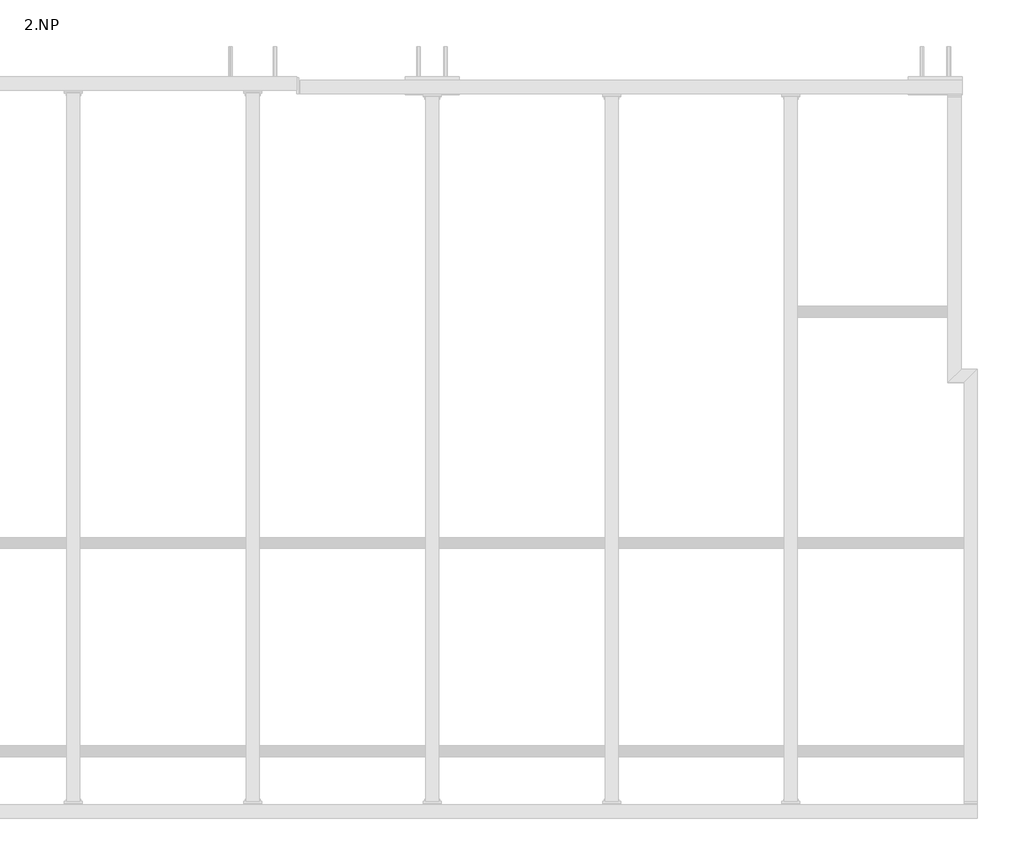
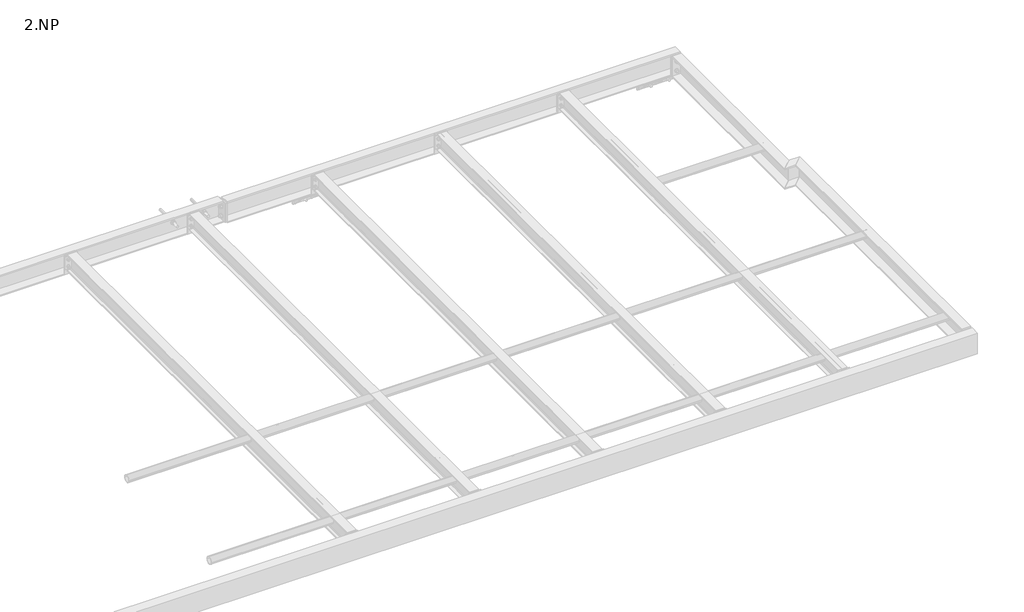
# One storey, part 18 of 18: 8 assemblies.
"""IFC4 building model written with IfcOpenShell, lengths in millimetres."""

import ifcopenshell
import ifcopenshell.guid

model = None  # the IFC model being written
_history = None  # IfcOwnerHistory: only IFC2X3 demands one
_inside = {}  # id of a spatial element -> (the spatial element, [elements in it])
_under = {}  # id of a project, library or spatial element -> (it, [spatial elements below it])
_declared = {}  # id of a project -> (the project, [libraries it declares])
_typed = {}  # id of a type object -> (the type object, [elements of that type])
_made_of = {}  # id of a material, layer set ... -> (it, [elements and type objects made of it])


def new_model(schema):
    """Start an empty IFC model of exactly this schema.

    Asked for "IFC4X3", IfcOpenShell would pick the latest addendum, in which some entities
    have other attributes; the version numbers below select the first issue.
    IFC2X3 requires an IfcOwnerHistory on every rooted entity: one is made here for all.
    """
    global model, _history
    if schema == "IFC4X3":
        model = ifcopenshell.file(schema_version=(4, 3, 0, 0))
    else:
        model = ifcopenshell.file(schema=schema)
    _inside.clear()
    _under.clear()
    _declared.clear()
    _typed.clear()
    _made_of.clear()
    _history = None
    if model.schema == "IFC2X3":
        org = make("IfcOrganization", Name="unknown")
        user = make(
            "IfcPersonAndOrganization",
            ThePerson=make("IfcPerson", FamilyName="unknown"),
            TheOrganization=org,
        )
        app = make(
            "IfcApplication",
            ApplicationDeveloper=org,
            Version="unknown",
            ApplicationFullName="unknown",
            ApplicationIdentifier="unknown",
        )
        _history = make(
            "IfcOwnerHistory",
            OwningUser=user,
            OwningApplication=app,
            ChangeAction="ADDED",
            CreationDate=0,
        )
    return model


def make(cls, **values):
    """One entity of the class cls with the attributes given. An attribute that is None is left unset."""
    return model.create_entity(
        cls, **{name: value for name, value in values.items() if value is not None}
    )


def rooted(cls, **values):
    """An entity with a GlobalId (a new one), such as an element, a storey or a relation."""
    return make(cls, GlobalId=ifcopenshell.guid.new(), OwnerHistory=_history, **values)


def si_unit(unit_type, name, prefix=None):
    """IfcSIUnit, for example si_unit("LENGTHUNIT", "METRE", prefix="MILLI")."""
    return make("IfcSIUnit", UnitType=unit_type, Prefix=prefix, Name=name)


def assignment(units):
    """IfcUnitAssignment: the units of a project."""
    return None if units is None else make("IfcUnitAssignment", Units=units)


def point(xyz):
    """IfcCartesianPoint."""
    return None if xyz is None else make("IfcCartesianPoint", Coordinates=xyz)


def direction(xyz):
    """IfcDirection."""
    return None if xyz is None else make("IfcDirection", DirectionRatios=xyz)


def frame(location, z_axis=None, x_axis=None):
    """IfcAxis2Placement3D, a coordinate frame: its origin and axes. An axis left out is left unset."""
    return make(
        "IfcAxis2Placement3D",
        Location=point(location),
        Axis=direction(z_axis),
        RefDirection=direction(x_axis),
    )


def frame_2d(location, x_axis=None):
    """IfcAxis2Placement2D, a coordinate frame in the plane: its origin and x axis."""
    return make(
        "IfcAxis2Placement2D", Location=point(location), RefDirection=direction(x_axis)
    )


def origin():
    """The frame at (0, 0, 0) with its axes left unset."""
    return frame((0.0, 0.0, 0.0))


def place(relative_to, where):
    """IfcLocalPlacement: puts the frame where relative to a parent placement (None: the world)."""
    return make(
        "IfcLocalPlacement", PlacementRelTo=relative_to, RelativePlacement=where
    )


def context(
    kind, dimensions, precision=None, world=None, true_north=None, identifier=None
):
    """IfcGeometricRepresentationContext, for example the 3D "Model" context."""
    return make(
        "IfcGeometricRepresentationContext",
        ContextIdentifier=identifier,
        ContextType=kind,
        CoordinateSpaceDimension=dimensions,
        Precision=precision,
        WorldCoordinateSystem=world,
        TrueNorth=true_north,
    )


def project(units=None, contexts=None):
    """IfcProject with its units and contexts."""
    return rooted(
        "IfcProject",
        Name="project",
        RepresentationContexts=contexts,
        UnitsInContext=assignment(units),
    )


def spatial(cls, under=None, at=None, **own):
    """A site, building, storey or space (cls), placed at a placement, below another one or the project."""
    s = rooted(cls, ObjectPlacement=at, **own)
    if under is not None:
        _under.setdefault(under.id(), (under, []))[1].append(s)
    return s


def polyline(points):
    """IfcPolyline through the points."""
    return make("IfcPolyline", Points=[point(p) for p in points])


def circle_curve(where, radius):
    """IfcCircle in the frame where."""
    return make("IfcCircle", Position=where, Radius=radius)


def trimmed(basis, trim1, trim2, sense, master):
    """IfcTrimmedCurve: the piece of a basis curve between two trims."""
    return make(
        "IfcTrimmedCurve",
        BasisCurve=basis,
        Trim1=trim1,
        Trim2=trim2,
        SenseAgreement=sense,
        MasterRepresentation=master,
    )


def segment(curve, same_sense, transition):
    """IfcCompositeCurveSegment."""
    return make(
        "IfcCompositeCurveSegment",
        Transition=transition,
        SameSense=same_sense,
        ParentCurve=curve,
    )


def composite_curve(segments, self_intersect=None):
    """IfcCompositeCurve: segments joined end to end."""
    return make("IfcCompositeCurve", Segments=segments, SelfIntersect=self_intersect)


def outline(outer, holes=None, kind="AREA"):
    """IfcArbitraryClosedProfileDef: a profile drawn as a closed curve; with holes, ...WithVoids."""
    if holes is None:
        return make("IfcArbitraryClosedProfileDef", ProfileType=kind, OuterCurve=outer)
    return make(
        "IfcArbitraryProfileDefWithVoids",
        ProfileType=kind,
        OuterCurve=outer,
        InnerCurves=holes,
    )


def extrude(swept, where, along, depth):
    """IfcExtrudedAreaSolid: the profile swept, set in the frame where, extruded along a direction by depth."""
    return make(
        "IfcExtrudedAreaSolid",
        SweptArea=swept,
        Position=where,
        ExtrudedDirection=direction(along),
        Depth=depth,
    )


def faces_of(points, faces, orient=None, outer=None):
    """IfcFace entities. A face is a list of loops; a loop is a list of indices into points, from 0.

    orient and outer hold one flag for each loop. By default every Orientation is true, the
    first loop of a face is its IfcFaceOuterBound and the others are IfcFaceBound.
    """
    made = []
    for i, loops in enumerate(faces):
        bounds = []
        for j, loop in enumerate(loops):
            is_outer = j == 0 if outer is None else outer[i][j]
            bounds.append(
                make(
                    "IfcFaceOuterBound" if is_outer else "IfcFaceBound",
                    Bound=make("IfcPolyLoop", Polygon=[points[k] for k in loop]),
                    Orientation=True if orient is None else orient[i][j],
                )
            )
        made.append(make("IfcFace", Bounds=bounds))
    return made


def faceted_brep(points, faces, orient=None, outer=None, voids=None):
    """IfcFacetedBrep: a solid bounded by flat faces; with voids (closed shells), ...WithVoids."""
    shared = [point(p) for p in points]
    hull = make("IfcClosedShell", CfsFaces=faces_of(shared, faces, orient, outer))
    if voids is None:
        return make("IfcFacetedBrep", Outer=hull)
    return make(
        "IfcFacetedBrepWithVoids",
        Outer=hull,
        Voids=[
            make(cls, CfsFaces=faces_of(shared, fs, o, b)) for cls, fs, o, b in voids
        ],
    )


def shape(context_of_items, identifier, shape_type, items):
    """IfcShapeRepresentation: the items that make up one representation, for example the "Body"."""
    return make(
        "IfcShapeRepresentation",
        ContextOfItems=context_of_items,
        RepresentationIdentifier=identifier,
        RepresentationType=shape_type,
        Items=items,
    )


def made_of(thing, what):
    """Note that an element or type object is made of a material, layer set ...; save() writes the relation."""
    if what is not None:
        _made_of.setdefault(what.id(), (what, []))[1].append(thing)
    return thing


def element(
    cls,
    number,
    at=None,
    inside=None,
    cuts=None,
    type_object=None,
    material=None,
    context=None,
    identifier="Body",
    shape_type=None,
    held_by="IfcProductDefinitionShape",
    body=None,
    shapes=None,
    **own,
):
    """One element of the class cls, such as IfcWall. Its Tag is "e" and its number.

    at: its placement. inside: the storey or other place that contains it. cuts: it is an
    opening in that element (IfcRelVoidsElement). A single representation is given by context,
    identifier, shape_type and body (its items); several are given by shapes. held_by: the class
    of the entity that holds the representations. save() writes the other relations.
    """
    e = rooted(cls, Tag="e%d" % number, ObjectPlacement=at, **own)
    if body is not None:
        shapes = [shape(context, identifier, shape_type, body)]
    if shapes is not None:
        e.Representation = make(held_by, Representations=shapes)
    if inside is not None:
        _inside.setdefault(inside.id(), (inside, []))[1].append(e)
    if cuts is not None:
        rooted(
            "IfcRelVoidsElement", RelatingBuildingElement=cuts, RelatedOpeningElement=e
        )
    if type_object is not None:
        _typed.setdefault(type_object.id(), (type_object, []))[1].append(e)
    return made_of(e, material)


def aggregate(whole, parts):
    """IfcRelAggregates: a whole, such as a stair, and the parts it consists of."""
    return rooted("IfcRelAggregates", RelatingObject=whole, RelatedObjects=parts)


def save(model, path):
    """Write the relations noted so far, then the file.

    IfcRelAggregates (storeys below a building ...), IfcRelContainedInSpatialStructure (elements
    in a storey), IfcRelDefinesByType, IfcRelAssociatesMaterial and IfcRelDeclares: one each for
    every whole, place, type object, material and project.
    """
    for whole, parts in _under.values():
        aggregate(whole, parts)
    for where, things in _inside.values():
        rooted(
            "IfcRelContainedInSpatialStructure",
            RelatedElements=things,
            RelatingStructure=where,
        )
    for kind, things in _typed.values():
        rooted("IfcRelDefinesByType", RelatedObjects=things, RelatingType=kind)
    for what, things in _made_of.values():
        rooted("IfcRelAssociatesMaterial", RelatedObjects=things, RelatingMaterial=what)
    for by, libraries in _declared.values():
        rooted("IfcRelDeclares", RelatingContext=by, RelatedDefinitions=libraries)
    model.write(path)


model = new_model("IFC4")

# Units and contexts
model_context = context("Model", 3, world=origin())
ifc_project = project(units=[si_unit("LENGTHUNIT", "METRE", prefix="MILLI")], contexts=[model_context])

# Site, building, storey
site = spatial("IfcSite", under=ifc_project)
building = spatial("IfcBuilding", under=site)
storey = spatial("IfcBuildingStorey", under=building, Name="2.NP", Elevation=3000.0)

# Assemblies
placement = place(None, origin())
element("IfcElementAssembly", 1, at=placement, inside=storey, context=model_context, shape_type="Brep", body=[
    faceted_brep([(16090.0, 2230.0, 3120.0), (16015.0, 2155.0, 3120.0), (15925.0, 2155.0, 3120.0), (16000.0, 2230.0, 3120.0), (16015.0, 2155.0, 3130.5), (15925.0, 2155.0, 3130.5), (16084.5, 2224.5, 3130.5), (15994.5, 2224.5, 3130.5), (16084.5, 2224.5, 3289.5), (15994.5, 2224.5, 3289.5), (16015.0, 2155.0, 3289.5), (15925.0, 2155.0, 3289.5), (16015.0, 2155.0, 3300.0), (15925.0, 2155.0, 3300.0), (16090.0, 2230.0, 3300.0), (16000.0, 2230.0, 3300.0)], [[[0, 1, 2, 3]], [[2, 1, 4, 5]], [[5, 4, 6, 7]], [[6, 8, 9, 7]], [[8, 10, 11, 9]], [[11, 10, 12, 13]], [[13, 12, 14, 15]], [[14, 0, 3, 15]], [[1, 0, 14, 12, 10, 8, 6, 4]], [[3, 2, 5, 7, 9, 11, 13, 15]]]),
])
element("IfcElementAssembly", 2, at=placement, inside=storey, context=model_context, shape_type="SweptSolid", body=[
    extrude(outline(composite_curve([segment(trimmed(circle_curve(frame_2d((1260.0, 3230.0)), 30.15), [point((1290.15, 3230.0))], [point((1229.85, 3230.0))], False, "CARTESIAN"), True, "CONTINUOUS"), segment(trimmed(circle_curve(frame_2d((1260.0, 3230.0)), 30.15), [point((1229.85, 3230.0))], [point((1290.15, 3230.0))], False, "CARTESIAN"), True, "CONTINUOUS")], self_intersect=False), holes=[composite_curve([segment(trimmed(circle_curve(frame_2d((1260.0, 3230.0)), 25.15), [point((1285.15, 3230.0))], [point((1234.85, 3230.0))], True, "CARTESIAN"), True, "CONTINUOUS"), segment(trimmed(circle_curve(frame_2d((1260.0, 3230.0)), 25.15), [point((1234.85, 3230.0))], [point((1285.15, 3230.0))], True, "CARTESIAN"), True, "CONTINUOUS")], self_intersect=False)]), frame((15050.0, 0.0, 0.0), z_axis=(1.0, 0.0, 0.0), x_axis=(0.0, 1.0, 0.0)), (0.0, 0.0, 1.0), 1034.5),
])
element("IfcElementAssembly", 3, at=placement, inside=storey, context=model_context, shape_type="SweptSolid", body=[
    extrude(outline(composite_curve([segment(trimmed(circle_curve(frame_2d((2550.0, 3230.0)), 30.15), [point((2580.15, 3230.0))], [point((2519.85, 3230.0))], False, "CARTESIAN"), True, "CONTINUOUS"), segment(trimmed(circle_curve(frame_2d((2550.0, 3230.0)), 30.15), [point((2519.85, 3230.0))], [point((2580.15, 3230.0))], False, "CARTESIAN"), True, "CONTINUOUS")], self_intersect=False), holes=[composite_curve([segment(trimmed(circle_curve(frame_2d((2550.0, 3230.0)), 25.15), [point((2575.15, 3230.0))], [point((2524.85, 3230.0))], True, "CARTESIAN"), True, "CONTINUOUS"), segment(trimmed(circle_curve(frame_2d((2550.0, 3230.0)), 25.15), [point((2524.85, 3230.0))], [point((2575.15, 3230.0))], True, "CARTESIAN"), True, "CONTINUOUS")], self_intersect=False)]), frame((15050.0, 0.0, 0.0), z_axis=(1.0, 0.0, 0.0), x_axis=(0.0, 1.0, 0.0)), (0.0, 0.0, 1.0), 945.0),
])
element("IfcElementAssembly", 4, at=placement, inside=storey, context=model_context, shape_type="SweptSolid", body=[
    extrude(outline(composite_curve([segment(polyline([(3160.0, 15013.5), (3160.0, 15086.5), (3166.9000001, 15086.5), (3166.9000001, 15059.3499999)]), True, "CONTINUOUS"), segment(trimmed(circle_curve(frame_2d((3173.9000001, 15059.3499999)), 7.0), [point((3166.9000001, 15059.3499999))], [point((3173.9000001, 15052.3499999))], True, "CARTESIAN"), True, "CONTINUOUS"), segment(polyline([(3173.9000001, 15052.3499999), (3286.0999999, 15052.3499999)]), True, "CONTINUOUS"), segment(trimmed(circle_curve(frame_2d((3286.0999999, 15059.3499999)), 7.0), [point((3286.0999999, 15052.3499999))], [point((3293.0999999, 15059.3499999))], True, "CARTESIAN"), True, "CONTINUOUS"), segment(polyline([(3293.0999999, 15059.3499999), (3293.0999999, 15086.5), (3300.0, 15086.5), (3300.0, 15013.5), (3293.0999999, 15013.5), (3293.0999999, 15040.6500001)]), True, "CONTINUOUS"), segment(trimmed(circle_curve(frame_2d((3286.0999999, 15040.6500001)), 7.0), [point((3293.0999999, 15040.6500001))], [point((3286.0999999, 15047.6500001))], True, "CARTESIAN"), True, "CONTINUOUS"), segment(polyline([(3286.0999999, 15047.6500001), (3173.9000001, 15047.6500001)]), True, "CONTINUOUS"), segment(trimmed(circle_curve(frame_2d((3173.9000001, 15040.6500001)), 7.0), [point((3173.9000001, 15047.6500001))], [point((3166.9000001, 15040.6500001))], True, "CARTESIAN"), True, "CONTINUOUS"), segment(polyline([(3166.9000001, 15040.6500001), (3166.9000001, 15013.5), (3160.0, 15013.5)]), True, "CONTINUOUS")], self_intersect=False)), frame((0.0, -180.0, 0.0), z_axis=(0.0, 1.0, 0.0), x_axis=(0.0, 0.0, 1.0)), (0.0, 0.0, 1.0), 3927.0),
    extrude(outline(polyline([(15000.0, 3755.0), (15100.0, 3755.0), (15100.0, 3747.0), (15000.0, 3747.0), (15000.0, 3755.0)])), frame((0.0, 0.0, 3175.0), z_axis=(0.0, 0.0, 1.0), x_axis=(1.0, 0.0, 0.0)), (0.0, 0.0, 1.0), 110.0),
    extrude(outline(polyline([(15000.0, -180.0), (15100.0, -180.0), (15100.0, -190.0), (15000.0, -190.0), (15000.0, -180.0)])), frame((0.0, 0.0, 3166.5), z_axis=(0.0, 0.0, 1.0), x_axis=(1.0, 0.0, 0.0)), (0.0, 0.0, 1.0), 127.0),
])
element("IfcElementAssembly", 5, at=placement, inside=storey, context=model_context, shape_type="SolidModel", body=[
    faceted_brep([(16090.0, -180.0, 3300.0), (16015.0, -180.0, 3300.0), (16015.0, -180.0, 3289.5), (16084.5, -180.0, 3289.5), (16084.5, -180.0, 3130.5), (16015.0, -180.0, 3130.5), (16015.0, -180.0, 3120.0), (16090.0, -180.0, 3120.0), (16090.0, 2230.0, 3300.0), (16015.0, 2155.0, 3300.0), (16015.0, 2155.0, 3289.5), (16084.5, 2224.5, 3289.5), (16084.5, 2224.5, 3130.5), (16015.0, 2155.0, 3130.5), (16015.0, 2155.0, 3120.0), (16090.0, 2230.0, 3120.0)], [[[0, 1, 2, 3, 4, 5, 6, 7]], [[1, 0, 8, 9]], [[2, 1, 9, 10]], [[3, 2, 10, 11]], [[4, 3, 11, 12]], [[5, 4, 12, 13]], [[6, 5, 13, 14]], [[7, 6, 14, 15]], [[0, 7, 15, 8]], [[9, 8, 15, 14, 13, 12, 11, 10]]]),
    extrude(outline(polyline([(16015.0, -180.0), (16090.0, -180.0), (16090.0, -190.0), (16015.0, -190.0), (16015.0, -180.0)])), frame((0.0, 0.0, 3130.0), z_axis=(0.0, 0.0, 1.0), x_axis=(1.0, 0.0, 0.0)), (0.0, 0.0, 1.0), 160.0),
])
element("IfcElementAssembly", 6, at=placement, inside=storey, context=model_context, shape_type="SolidModel", body=[
    faceted_brep([(16000.0, 3745.0, 3120.0), (15925.0, 3745.0, 3120.0), (15925.0, 3745.0, 3130.5), (15994.5, 3745.0, 3130.5), (15994.5, 3745.0, 3289.5), (15925.0, 3745.0, 3289.5), (15925.0, 3745.0, 3300.0), (16000.0, 3745.0, 3300.0), (16000.0, 2230.0, 3120.0), (15925.0, 2155.0, 3120.0), (15925.0, 2155.0, 3130.5), (15994.5, 2224.5, 3130.5), (15994.5, 2224.5, 3289.5), (15925.0, 2155.0, 3289.5), (15925.0, 2155.0, 3300.0), (16000.0, 2230.0, 3300.0)], [[[0, 1, 2, 3, 4, 5, 6, 7]], [[1, 0, 8, 9]], [[2, 1, 9, 10]], [[3, 2, 10, 11]], [[4, 3, 11, 12]], [[5, 4, 12, 13]], [[6, 5, 13, 14]], [[7, 6, 14, 15]], [[0, 7, 15, 8]], [[9, 8, 15, 14, 13, 12, 11, 10]]]),
    extrude(outline(polyline([(15925.0, 3755.0), (16000.0, 3755.0), (16000.0, 3745.0), (15925.0, 3745.0), (15925.0, 3755.0)])), frame((0.0, 0.0, 3130.0), z_axis=(0.0, 0.0, 1.0), x_axis=(1.0, 0.0, 0.0)), (0.0, 0.0, 1.0), 160.0),
])
element("IfcElementAssembly", 7, at=placement, inside=storey, context=model_context, shape_type="SweptSolid", body=[
    extrude(outline(composite_curve([segment(polyline([(3860.0, 3120.0), (3860.0, 3020.0), (3856.0, 3020.0)]), True, "CONTINUOUS"), segment(trimmed(circle_curve(frame_2d((3856.0, 3026.0)), 6.0), [point((3856.0, 3020.0))], [point((3850.0, 3026.0))], False, "CARTESIAN"), True, "CONTINUOUS"), segment(polyline([(3850.0, 3026.0), (3850.0, 3098.0)]), True, "CONTINUOUS"), segment(trimmed(circle_curve(frame_2d((3838.0, 3098.0)), 12.0), [point((3850.0, 3098.0))], [point((3838.0, 3110.0))], True, "CARTESIAN"), True, "CONTINUOUS"), segment(polyline([(3838.0, 3110.0), (3766.0, 3110.0)]), True, "CONTINUOUS"), segment(trimmed(circle_curve(frame_2d((3766.0, 3116.0)), 6.0), [point((3766.0, 3110.0))], [point((3760.0, 3116.0))], False, "CARTESIAN"), True, "CONTINUOUS"), segment(polyline([(3760.0, 3116.0), (3760.0, 3120.0), (3860.0, 3120.0)]), True, "CONTINUOUS")], self_intersect=False)), frame((15705.0, 0.0, 0.0), z_axis=(1.0, 0.0, 0.0), x_axis=(0.0, 1.0, 0.0)), (0.0, 0.0, 1.0), 300.0),
    extrude(outline(composite_curve([segment(polyline([(3770.0, 3110.0), (3835.0, 3110.0)]), True, "CONTINUOUS"), segment(trimmed(circle_curve(frame_2d((3850.0, 3110.0)), 15.0), [point((3835.0, 3110.0))], [point((3850.0, 3095.0))], True, "CARTESIAN"), True, "CONTINUOUS"), segment(polyline([(3850.0, 3095.0), (3850.0, 3030.0), (3840.0, 3030.0), (3770.0, 3100.0), (3770.0, 3110.0)]), True, "CONTINUOUS")], self_intersect=False)), frame((15715.0, 0.0, 0.0), z_axis=(1.0, 0.0, 0.0), x_axis=(0.0, 1.0, 0.0)), (0.0, 0.0, 1.0), 8.0),
    extrude(outline(composite_curve([segment(polyline([(3770.0, 3110.0), (3835.0, 3110.0)]), True, "CONTINUOUS"), segment(trimmed(circle_curve(frame_2d((3850.0, 3110.0)), 15.0), [point((3835.0, 3110.0))], [point((3850.0, 3095.0))], True, "CARTESIAN"), True, "CONTINUOUS"), segment(polyline([(3850.0, 3095.0), (3850.0, 3030.0), (3840.0, 3030.0), (3770.0, 3100.0), (3770.0, 3110.0)]), True, "CONTINUOUS")], self_intersect=False)), frame((15987.0, 0.0, 0.0), z_axis=(1.0, 0.0, 0.0), x_axis=(0.0, 1.0, 0.0)), (0.0, 0.0, 1.0), 8.0),
    extrude(outline(composite_curve([segment(polyline([(3770.0, 3110.0), (3835.0, 3110.0)]), True, "CONTINUOUS"), segment(trimmed(circle_curve(frame_2d((3850.0, 3110.0)), 15.0), [point((3835.0, 3110.0))], [point((3850.0, 3095.0))], True, "CARTESIAN"), True, "CONTINUOUS"), segment(polyline([(3850.0, 3095.0), (3850.0, 3030.0), (3840.0, 3030.0), (3770.0, 3100.0), (3770.0, 3110.0)]), True, "CONTINUOUS")], self_intersect=False)), frame((15851.0, 0.0, 0.0), z_axis=(1.0, 0.0, 0.0), x_axis=(0.0, 1.0, 0.0)), (0.0, 0.0, 1.0), 8.0),
    extrude(outline(polyline([(3070.0, 15789.8149546), (3078.5, 15784.9074773), (3078.5, 15775.0925227), (3070.0, 15770.1850454), (3061.5, 15775.0925227), (3061.5, 15784.9074773), (3070.0, 15789.8149546)])), frame((0.0, 3860.0, 0.0), z_axis=(0.0, 1.0, 0.0), x_axis=(0.0, 0.0, 1.0)), (0.0, 0.0, 1.0), 168.0),
    extrude(outline(composite_curve([segment(trimmed(circle_curve(frame_2d((3070.0, 15780.0)), 10.0), [point((3070.0, 15790.0))], [point((3070.0, 15770.0))], False, "CARTESIAN"), True, "CONTINUOUS"), segment(trimmed(circle_curve(frame_2d((3070.0, 15780.0)), 10.0), [point((3070.0, 15770.0))], [point((3070.0, 15790.0))], False, "CARTESIAN"), True, "CONTINUOUS")], self_intersect=False)), frame((0.0, 3788.0, 0.0), z_axis=(0.0, 1.0, 0.0), x_axis=(0.0, 0.0, 1.0)), (0.0, 0.0, 1.0), 72.0),
    extrude(outline(composite_curve([segment(trimmed(circle_curve(frame_2d((3070.0, 15780.0)), 18.5), [point((3070.0, 15798.5))], [point((3070.0, 15761.5))], False, "CARTESIAN"), True, "CONTINUOUS"), segment(trimmed(circle_curve(frame_2d((3070.0, 15780.0)), 18.5), [point((3070.0, 15761.5))], [point((3070.0, 15798.5))], False, "CARTESIAN"), True, "CONTINUOUS")], self_intersect=False)), frame((0.0, 3847.0, 0.0), z_axis=(0.0, 1.0, 0.0), x_axis=(0.0, 0.0, 1.0)), (0.0, 0.0, 1.0), 3.0),
    extrude(outline(polyline([(3070.0, 15797.3205081), (3085.0, 15788.660254), (3085.0, 15771.339746), (3070.0, 15762.6794919), (3055.0, 15771.339746), (3055.0, 15788.660254), (3070.0, 15797.3205081)])), frame((0.0, 3831.0, 0.0), z_axis=(0.0, 1.0, 0.0), x_axis=(0.0, 0.0, 1.0)), (0.0, 0.0, 1.0), 16.0),
    extrude(outline(composite_curve([segment(trimmed(circle_curve(frame_2d((3070.0, 15780.0)), 11.0), [point((3070.0, 15791.0))], [point((3070.0, 15769.0))], False, "CARTESIAN"), True, "CONTINUOUS"), segment(trimmed(circle_curve(frame_2d((3070.0, 15780.0)), 11.0), [point((3070.0, 15769.0))], [point((3070.0, 15791.0))], False, "CARTESIAN"), True, "CONTINUOUS")], self_intersect=False)), frame((0.0, 3849.9, 0.0), z_axis=(0.0, 1.0, 0.0), x_axis=(0.0, 0.0, 1.0)), (0.0, 0.0, 1.0), 10.1),
    extrude(outline(polyline([(3070.0, 15939.8149546), (3078.5, 15934.9074773), (3078.5, 15925.0925227), (3070.0, 15920.1850454), (3061.5, 15925.0925227), (3061.5, 15934.9074773), (3070.0, 15939.8149546)])), frame((0.0, 3860.0, 0.0), z_axis=(0.0, 1.0, 0.0), x_axis=(0.0, 0.0, 1.0)), (0.0, 0.0, 1.0), 168.0),
    extrude(outline(composite_curve([segment(trimmed(circle_curve(frame_2d((3070.0, 15930.0)), 10.0), [point((3070.0, 15940.0))], [point((3070.0, 15920.0))], False, "CARTESIAN"), True, "CONTINUOUS"), segment(trimmed(circle_curve(frame_2d((3070.0, 15930.0)), 10.0), [point((3070.0, 15920.0))], [point((3070.0, 15940.0))], False, "CARTESIAN"), True, "CONTINUOUS")], self_intersect=False)), frame((0.0, 3788.0, 0.0), z_axis=(0.0, 1.0, 0.0), x_axis=(0.0, 0.0, 1.0)), (0.0, 0.0, 1.0), 72.0),
    extrude(outline(composite_curve([segment(trimmed(circle_curve(frame_2d((3070.0, 15930.0)), 18.5), [point((3070.0, 15948.5))], [point((3070.0, 15911.5))], False, "CARTESIAN"), True, "CONTINUOUS"), segment(trimmed(circle_curve(frame_2d((3070.0, 15930.0)), 18.5), [point((3070.0, 15911.5))], [point((3070.0, 15948.5))], False, "CARTESIAN"), True, "CONTINUOUS")], self_intersect=False)), frame((0.0, 3847.0, 0.0), z_axis=(0.0, 1.0, 0.0), x_axis=(0.0, 0.0, 1.0)), (0.0, 0.0, 1.0), 3.0),
    extrude(outline(polyline([(3070.0, 15947.3205081), (3085.0, 15938.660254), (3085.0, 15921.339746), (3070.0, 15912.6794919), (3055.0, 15921.339746), (3055.0, 15938.660254), (3070.0, 15947.3205081)])), frame((0.0, 3831.0, 0.0), z_axis=(0.0, 1.0, 0.0), x_axis=(0.0, 0.0, 1.0)), (0.0, 0.0, 1.0), 16.0),
    extrude(outline(composite_curve([segment(trimmed(circle_curve(frame_2d((3070.0, 15930.0)), 11.0), [point((3070.0, 15941.0))], [point((3070.0, 15919.0))], False, "CARTESIAN"), True, "CONTINUOUS"), segment(trimmed(circle_curve(frame_2d((3070.0, 15930.0)), 11.0), [point((3070.0, 15919.0))], [point((3070.0, 15941.0))], False, "CARTESIAN"), True, "CONTINUOUS")], self_intersect=False)), frame((0.0, 3849.9, 0.0), z_axis=(0.0, 1.0, 0.0), x_axis=(0.0, 0.0, 1.0)), (0.0, 0.0, 1.0), 10.1),
])
element("IfcElementAssembly", 8, at=placement, inside=storey, context=model_context, shape_type="SweptSolid", body=[
    extrude(outline(composite_curve([segment(polyline([(3860.0, 3120.0), (3860.0, 3020.0), (3856.0, 3020.0)]), True, "CONTINUOUS"), segment(trimmed(circle_curve(frame_2d((3856.0, 3026.0)), 6.0), [point((3856.0, 3020.0))], [point((3850.0, 3026.0))], False, "CARTESIAN"), True, "CONTINUOUS"), segment(polyline([(3850.0, 3026.0), (3850.0, 3098.0)]), True, "CONTINUOUS"), segment(trimmed(circle_curve(frame_2d((3838.0, 3098.0)), 12.0), [point((3850.0, 3098.0))], [point((3838.0, 3110.0))], True, "CARTESIAN"), True, "CONTINUOUS"), segment(polyline([(3838.0, 3110.0), (3766.0, 3110.0)]), True, "CONTINUOUS"), segment(trimmed(circle_curve(frame_2d((3766.0, 3116.0)), 6.0), [point((3766.0, 3110.0))], [point((3760.0, 3116.0))], False, "CARTESIAN"), True, "CONTINUOUS"), segment(polyline([(3760.0, 3116.0), (3760.0, 3120.0), (3860.0, 3120.0)]), True, "CONTINUOUS")], self_intersect=False)), frame((12900.0, 0.0, 0.0), z_axis=(1.0, 0.0, 0.0), x_axis=(0.0, 1.0, 0.0)), (0.0, 0.0, 1.0), 300.0),
    extrude(outline(composite_curve([segment(polyline([(3770.0, 3110.0), (3835.0, 3110.0)]), True, "CONTINUOUS"), segment(trimmed(circle_curve(frame_2d((3850.0, 3110.0)), 15.0), [point((3835.0, 3110.0))], [point((3850.0, 3095.0))], True, "CARTESIAN"), True, "CONTINUOUS"), segment(polyline([(3850.0, 3095.0), (3850.0, 3030.0), (3840.0, 3030.0), (3770.0, 3100.0), (3770.0, 3110.0)]), True, "CONTINUOUS")], self_intersect=False)), frame((12910.0, 0.0, 0.0), z_axis=(1.0, 0.0, 0.0), x_axis=(0.0, 1.0, 0.0)), (0.0, 0.0, 1.0), 8.0),
    extrude(outline(composite_curve([segment(polyline([(3770.0, 3110.0), (3835.0, 3110.0)]), True, "CONTINUOUS"), segment(trimmed(circle_curve(frame_2d((3850.0, 3110.0)), 15.0), [point((3835.0, 3110.0))], [point((3850.0, 3095.0))], True, "CARTESIAN"), True, "CONTINUOUS"), segment(polyline([(3850.0, 3095.0), (3850.0, 3030.0), (3840.0, 3030.0), (3770.0, 3100.0), (3770.0, 3110.0)]), True, "CONTINUOUS")], self_intersect=False)), frame((13182.0, 0.0, 0.0), z_axis=(1.0, 0.0, 0.0), x_axis=(0.0, 1.0, 0.0)), (0.0, 0.0, 1.0), 8.0),
    extrude(outline(composite_curve([segment(polyline([(3770.0, 3110.0), (3835.0, 3110.0)]), True, "CONTINUOUS"), segment(trimmed(circle_curve(frame_2d((3850.0, 3110.0)), 15.0), [point((3835.0, 3110.0))], [point((3850.0, 3095.0))], True, "CARTESIAN"), True, "CONTINUOUS"), segment(polyline([(3850.0, 3095.0), (3850.0, 3030.0), (3840.0, 3030.0), (3770.0, 3100.0), (3770.0, 3110.0)]), True, "CONTINUOUS")], self_intersect=False)), frame((13046.0, 0.0, 0.0), z_axis=(1.0, 0.0, 0.0), x_axis=(0.0, 1.0, 0.0)), (0.0, 0.0, 1.0), 8.0),
    extrude(outline(polyline([(3070.0, 12984.8149546), (3078.5, 12979.9074773), (3078.5, 12970.0925227), (3070.0, 12965.1850454), (3061.5, 12970.0925227), (3061.5, 12979.9074773), (3070.0, 12984.8149546)])), frame((0.0, 3860.0, 0.0), z_axis=(0.0, 1.0, 0.0), x_axis=(0.0, 0.0, 1.0)), (0.0, 0.0, 1.0), 168.0),
    extrude(outline(composite_curve([segment(trimmed(circle_curve(frame_2d((3070.0, 12975.0)), 10.0), [point((3070.0, 12985.0))], [point((3070.0, 12965.0))], False, "CARTESIAN"), True, "CONTINUOUS"), segment(trimmed(circle_curve(frame_2d((3070.0, 12975.0)), 10.0), [point((3070.0, 12965.0))], [point((3070.0, 12985.0))], False, "CARTESIAN"), True, "CONTINUOUS")], self_intersect=False)), frame((0.0, 3788.0, 0.0), z_axis=(0.0, 1.0, 0.0), x_axis=(0.0, 0.0, 1.0)), (0.0, 0.0, 1.0), 72.0),
    extrude(outline(composite_curve([segment(trimmed(circle_curve(frame_2d((3070.0, 12975.0)), 18.5), [point((3070.0, 12993.5))], [point((3070.0, 12956.5))], False, "CARTESIAN"), True, "CONTINUOUS"), segment(trimmed(circle_curve(frame_2d((3070.0, 12975.0)), 18.5), [point((3070.0, 12956.5))], [point((3070.0, 12993.5))], False, "CARTESIAN"), True, "CONTINUOUS")], self_intersect=False)), frame((0.0, 3847.0, 0.0), z_axis=(0.0, 1.0, 0.0), x_axis=(0.0, 0.0, 1.0)), (0.0, 0.0, 1.0), 3.0),
    extrude(outline(polyline([(3070.0, 12992.3205081), (3085.0, 12983.660254), (3085.0, 12966.339746), (3070.0, 12957.6794919), (3055.0, 12966.339746), (3055.0, 12983.660254), (3070.0, 12992.3205081)])), frame((0.0, 3831.0, 0.0), z_axis=(0.0, 1.0, 0.0), x_axis=(0.0, 0.0, 1.0)), (0.0, 0.0, 1.0), 16.0),
    extrude(outline(composite_curve([segment(trimmed(circle_curve(frame_2d((3070.0, 12975.0)), 11.0), [point((3070.0, 12986.0))], [point((3070.0, 12964.0))], False, "CARTESIAN"), True, "CONTINUOUS"), segment(trimmed(circle_curve(frame_2d((3070.0, 12975.0)), 11.0), [point((3070.0, 12964.0))], [point((3070.0, 12986.0))], False, "CARTESIAN"), True, "CONTINUOUS")], self_intersect=False)), frame((0.0, 3849.9, 0.0), z_axis=(0.0, 1.0, 0.0), x_axis=(0.0, 0.0, 1.0)), (0.0, 0.0, 1.0), 10.1),
    extrude(outline(polyline([(3070.0, 13134.8149546), (3078.5, 13129.9074773), (3078.5, 13120.0925227), (3070.0, 13115.1850454), (3061.5, 13120.0925227), (3061.5, 13129.9074773), (3070.0, 13134.8149546)])), frame((0.0, 3860.0, 0.0), z_axis=(0.0, 1.0, 0.0), x_axis=(0.0, 0.0, 1.0)), (0.0, 0.0, 1.0), 168.0),
    extrude(outline(composite_curve([segment(trimmed(circle_curve(frame_2d((3070.0, 13125.0)), 10.0), [point((3070.0, 13135.0))], [point((3070.0, 13115.0))], False, "CARTESIAN"), True, "CONTINUOUS"), segment(trimmed(circle_curve(frame_2d((3070.0, 13125.0)), 10.0), [point((3070.0, 13115.0))], [point((3070.0, 13135.0))], False, "CARTESIAN"), True, "CONTINUOUS")], self_intersect=False)), frame((0.0, 3788.0, 0.0), z_axis=(0.0, 1.0, 0.0), x_axis=(0.0, 0.0, 1.0)), (0.0, 0.0, 1.0), 72.0),
    extrude(outline(composite_curve([segment(trimmed(circle_curve(frame_2d((3070.0, 13125.0)), 18.5), [point((3070.0, 13143.5))], [point((3070.0, 13106.5))], False, "CARTESIAN"), True, "CONTINUOUS"), segment(trimmed(circle_curve(frame_2d((3070.0, 13125.0)), 18.5), [point((3070.0, 13106.5))], [point((3070.0, 13143.5))], False, "CARTESIAN"), True, "CONTINUOUS")], self_intersect=False)), frame((0.0, 3847.0, 0.0), z_axis=(0.0, 1.0, 0.0), x_axis=(0.0, 0.0, 1.0)), (0.0, 0.0, 1.0), 3.0),
    extrude(outline(polyline([(3070.0, 13142.3205081), (3085.0, 13133.660254), (3085.0, 13116.339746), (3070.0, 13107.6794919), (3055.0, 13116.339746), (3055.0, 13133.660254), (3070.0, 13142.3205081)])), frame((0.0, 3831.0, 0.0), z_axis=(0.0, 1.0, 0.0), x_axis=(0.0, 0.0, 1.0)), (0.0, 0.0, 1.0), 16.0),
    extrude(outline(composite_curve([segment(trimmed(circle_curve(frame_2d((3070.0, 13125.0)), 11.0), [point((3070.0, 13136.0))], [point((3070.0, 13114.0))], False, "CARTESIAN"), True, "CONTINUOUS"), segment(trimmed(circle_curve(frame_2d((3070.0, 13125.0)), 11.0), [point((3070.0, 13114.0))], [point((3070.0, 13136.0))], False, "CARTESIAN"), True, "CONTINUOUS")], self_intersect=False)), frame((0.0, 3849.9, 0.0), z_axis=(0.0, 1.0, 0.0), x_axis=(0.0, 0.0, 1.0)), (0.0, 0.0, 1.0), 10.1),
])

save(model, "model.ifc")
